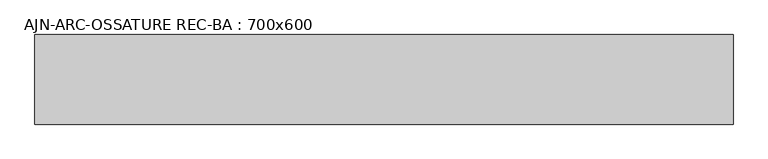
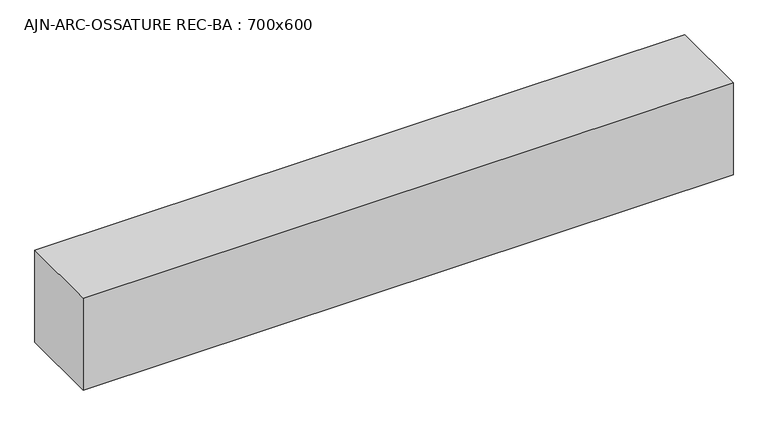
"""IFC4 building model written with IfcOpenShell, lengths in millimetres: beam geometry, AJN-ARC-OSSATURE REC-BA : 700x600."""

from ifc_helpers import new_model, si_unit, frame, origin, place, context, project, spatial, polyline, outline, extrude, source, transform, mapped, element, save


def ajn_arc_ossature_rec_ba_700x600_758f1bfa(model_context):
    return source(origin(), model_context, "Body", "SweptSolid", [
        extrude(outline(polyline([(2437.3, 300.0), (2437.3, -300.0), (-2237.3, -300.0), (-2237.3, 300.0), (2437.3, 300.0)])), frame((0.0, 0.0, -350.0), z_axis=(0.0, 0.0, 1.0), x_axis=(1.0, 0.0, 0.0)), (0.0, 0.0, 1.0), 700.0),
    ])


if __name__ == "__main__":
    model = new_model("IFC4")
    model_context = context("Model", 3, world=origin())
    ifc_project = project(units=[si_unit("LENGTHUNIT", "METRE", prefix="MILLI")], contexts=[model_context])
    site = spatial("IfcSite", under=ifc_project)
    building = spatial("IfcBuilding", under=site)
    placement = place(None, origin())
    ajn_arc_ossature_rec_ba_700x600_shape = ajn_arc_ossature_rec_ba_700x600_758f1bfa(model_context)
    element("IfcBeam", 1, ObjectType="AJN-ARC-OSSATURE REC-BA : 700x600", at=placement, inside=building, context=model_context, shape_type="MappedRepresentation", body=[
        mapped(ajn_arc_ossature_rec_ba_700x600_shape, transform((0.0, 0.0, 0.0), x_axis=(1.0, 0.0, 0.0), y_axis=(0.0, 1.0, 0.0), z_axis=(0.0, 0.0, 1.0))),
    ])
    save(model, "model.ifc")
